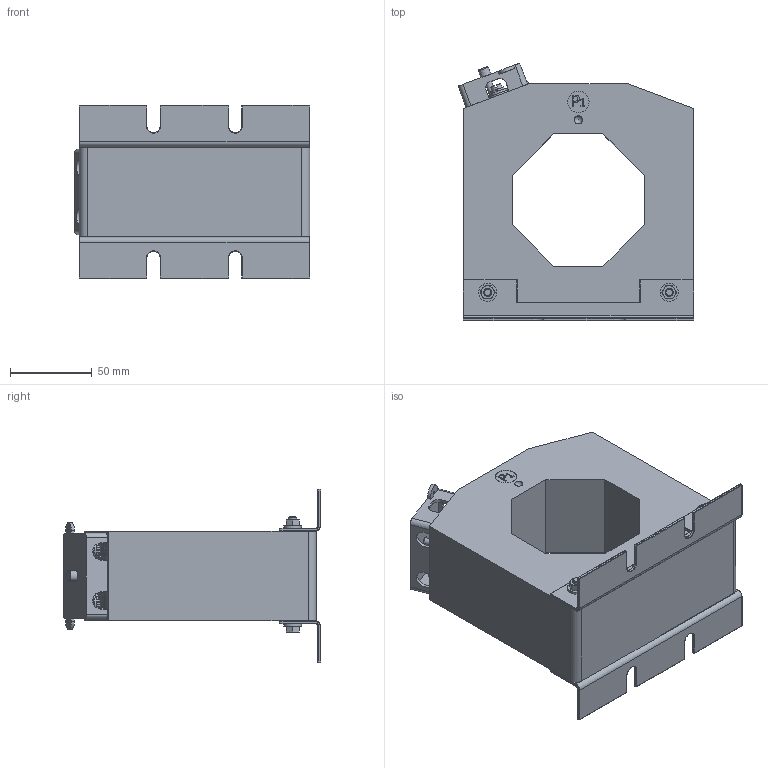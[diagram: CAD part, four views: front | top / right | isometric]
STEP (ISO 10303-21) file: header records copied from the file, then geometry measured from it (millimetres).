
FILE_DESCRIPTION(/* description */ (''),/* implementation_level */ '2;1');
FILE_NAME(/* name */ 'T:\EngMecanica\DESENHOS INVENTOR\Catalogo 2019\Arquivos STEP\KR-801.stp',/* time_stamp */ '2026-05-22T11:19:27-03:00',/* author */ ('jose.luis'),/* organization */ (''),/* preprocessor_version */ 'ST-DEVELOPER v18.1',/* originating_system */ 'Autodesk Inventor 2021',/* authorisation */ '');
FILE_SCHEMA (('AUTOMOTIVE_DESIGN { 1 0 10303 214 3 1 1 }'));
Length unit declared in the file: millimetre
Products named in the file (14): KR-801; Corpo; Cantoneira KR-801; DIN 976-1 - M5 x 70 - A; DIN 976-1 - M5 x 70 - A_1; Cantoneira KR-801_MIR; borne quadrado; Bucha redonda borne; Protetor de borne; parafuso recartilhado; BS 3692 - M5; ANSI B18.22M - 5 N; Washer GB/T 9074.26-1988 5; AS 1427 - M4 x 6
Assembly tree (25 placements, depth 2):
  KR-801
    Corpo
    Cantoneira KR-801
    DIN 976-1 - M5 x 70 - A
    DIN 976-1 - M5 x 70 - A_1
    Cantoneira KR-801_MIR
    borne quadrado
    Bucha redonda borne  x2
    Protetor de borne
    parafuso recartilhado
    ANSI B18.22M - 5 N  x6
    BS 3692 - M5  x4
    Washer GB/T 9074.26-1988 5  x3
    AS 1427 - M4 x 6  x2
Bounding box: 143.95 x 157.38 x 105.8 mm (x, y, z)
Volume: 806309.2 mm3; surface area: 112734.5 mm2
Topology: 25 solids, 25 shells, 609 faces, 1400 edges, 860 vertices
Faces by surface type: plane 245, cylinder 173, cone 68, bspline 53, sphere 42, torus 28
Full cylindrical faces by diameter (mm): 1.8 x2, 3.141 x2, 3.242 x1, 4 x3, 4.134 x6, 4.9 x1, 5 x8, 5.6 x6, 6.5 x1, 7 x1, 11 x10, 13 x5
Entity records: 15304 total; most frequent: CARTESIAN_POINT 3341, DIRECTION 2352, ORIENTED_EDGE 2314, EDGE_CURVE 1157, AXIS2_PLACEMENT_3D 856, VERTEX_POINT 713, LINE 640, VECTOR 640
